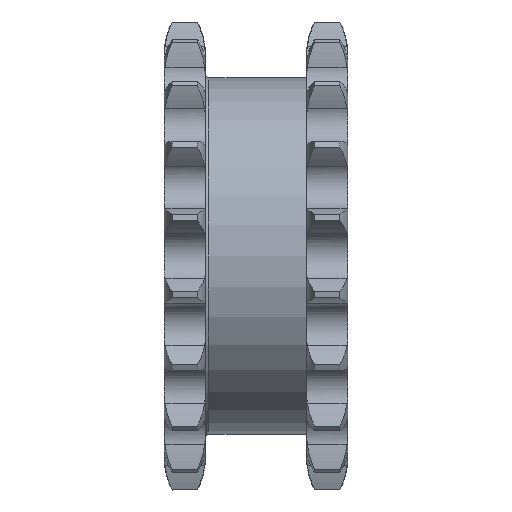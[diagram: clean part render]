
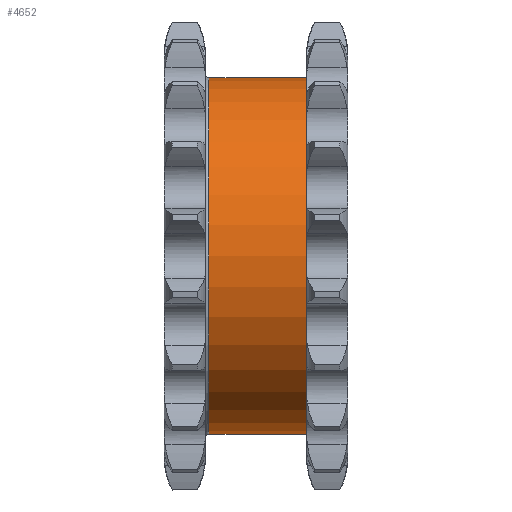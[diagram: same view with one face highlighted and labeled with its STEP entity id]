
A CAD part, front view. The second image highlights one B-rep face of the part: STEP entity #4652.
In plain terms, the highlighted cylindrical face has radius 31 mm (diameter 62 mm), a full revolution.
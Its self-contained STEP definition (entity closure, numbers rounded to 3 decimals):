
#19=FACE_BOUND('',#935,.T.);
#688=FACE_OUTER_BOUND('',#934,.T.);
#934=EDGE_LOOP('',(#4183));
#935=EDGE_LOOP('',(#4184));
#1492=CIRCLE('',#5110,31.);
#1497=CIRCLE('',#5137,31.);
#2008=VERTEX_POINT('',#9359);
#2012=VERTEX_POINT('',#9424);
#2751=EDGE_CURVE('',#2008,#2008,#1492,.T.);
#2759=EDGE_CURVE('',#2012,#2012,#1497,.T.);
#4183=ORIENTED_EDGE('',*,*,#2759,.T.);
#4184=ORIENTED_EDGE('',*,*,#2751,.F.);
#4415=CYLINDRICAL_SURFACE('',#5138,31.);
#4652=ADVANCED_FACE('',(#688,#19),#4415,.T.);
#5110=AXIS2_PLACEMENT_3D('',#9360,#6202,#6203);
#5137=AXIS2_PLACEMENT_3D('',#9425,#6256,#6257);
#5138=AXIS2_PLACEMENT_3D('',#9426,#6258,#6259);
#6202=DIRECTION('center_axis',(1.,0.,0.));
#6203=DIRECTION('ref_axis',(0.,0.,-1.));
#6256=DIRECTION('center_axis',(1.,0.,0.));
#6257=DIRECTION('ref_axis',(0.,0.,-1.));
#6258=DIRECTION('center_axis',(1.,0.,0.));
#6259=DIRECTION('ref_axis',(0.,1.,0.));
#9359=CARTESIAN_POINT('',(15.195,59.749,0.));
#9360=CARTESIAN_POINT('Origin',(15.195,28.749,0.));
#9424=CARTESIAN_POINT('',(-1.805,59.749,0.));
#9425=CARTESIAN_POINT('Origin',(-1.805,28.749,0.));
#9426=CARTESIAN_POINT('Origin',(6.695,28.749,0.));
